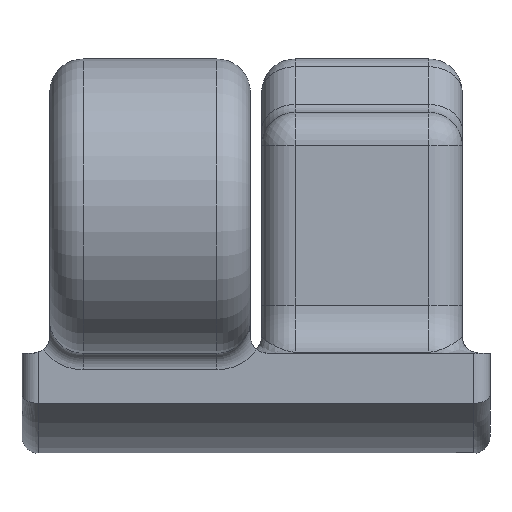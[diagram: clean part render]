
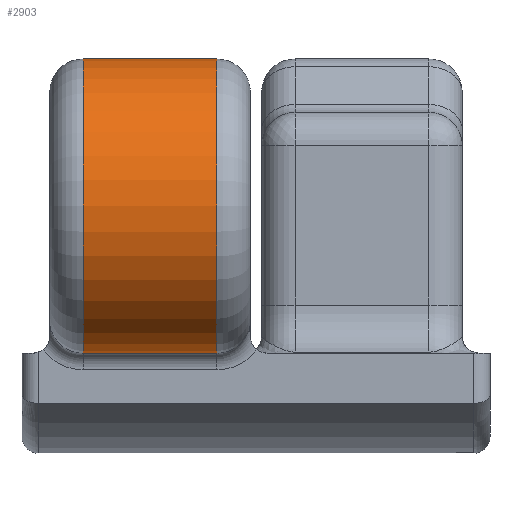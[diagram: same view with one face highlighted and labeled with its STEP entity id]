
A CAD part, left-side view. The second image highlights one B-rep face of the part: STEP entity #2903.
In plain terms, the highlighted cylindrical face has radius 4.4 mm (diameter 8.8 mm), a partial arc.
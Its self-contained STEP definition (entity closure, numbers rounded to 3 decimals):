
#336=CARTESIAN_POINT('',(-6.35,5.17,4.4));
#337=DIRECTION('',(0.,1.,0.));
#338=DIRECTION('',(0.,0.,-1.));
#339=AXIS2_PLACEMENT_3D('',#336,#337,#338);
#815=DIRECTION('',(0.,1.,0.));
#816=VECTOR('',#815,4.);
#817=CARTESIAN_POINT('',(-6.35,1.17,8.8));
#818=LINE('',#817,#816);
#852=CARTESIAN_POINT('',(-6.35,1.17,4.4));
#853=DIRECTION('',(0.,-1.,0.));
#854=DIRECTION('',(0.,0.,1.));
#855=AXIS2_PLACEMENT_3D('',#852,#853,#854);
#890=DIRECTION('',(0.,1.,0.));
#891=VECTOR('',#890,4.);
#892=CARTESIAN_POINT('',(-6.35,1.17,0.));
#893=LINE('',#892,#891);
#1941=CARTESIAN_POINT('',(-6.35,5.17,0.));
#1942=CARTESIAN_POINT('',(-6.35,5.17,8.8));
#1943=VERTEX_POINT('',#1941);
#1944=VERTEX_POINT('',#1942);
#1965=CARTESIAN_POINT('',(-6.35,1.17,8.8));
#1966=CARTESIAN_POINT('',(-6.35,1.17,0.));
#1967=VERTEX_POINT('',#1965);
#1968=VERTEX_POINT('',#1966);
#2892=CARTESIAN_POINT('',(-6.35,0.17,4.4));
#2893=DIRECTION('',(0.,1.,0.));
#2894=DIRECTION('',(-1.,0.,0.));
#2895=AXIS2_PLACEMENT_3D('',#2892,#2893,#2894);
#2896=CYLINDRICAL_SURFACE('',#2895,4.4);
#2897=ORIENTED_EDGE('',*,*,#2874,.T.);
#2898=ORIENTED_EDGE('',*,*,#2371,.T.);
#2899=ORIENTED_EDGE('',*,*,#2414,.T.);
#2900=ORIENTED_EDGE('',*,*,#2846,.F.);
#2901=EDGE_LOOP('',(#2897,#2898,#2899,#2900));
#2902=FACE_OUTER_BOUND('',#2901,.F.);
#340=CIRCLE('',#339,4.4);
#856=CIRCLE('',#855,4.4);
#2371=EDGE_CURVE('',#1968,#1943,#893,.T.);
#2414=EDGE_CURVE('',#1943,#1944,#340,.T.);
#2846=EDGE_CURVE('',#1967,#1944,#818,.T.);
#2874=EDGE_CURVE('',#1967,#1968,#856,.T.);
#2903=ADVANCED_FACE('',(#2902),#2896,.T.);
